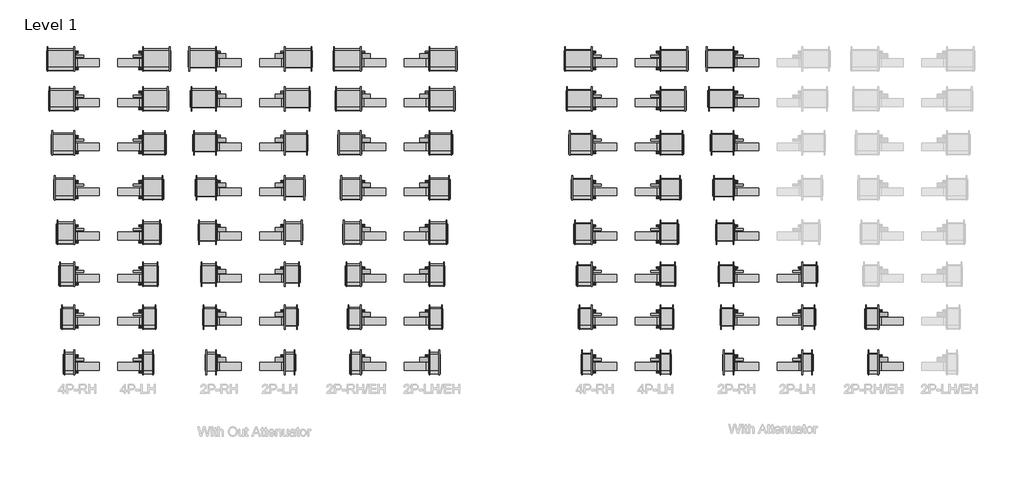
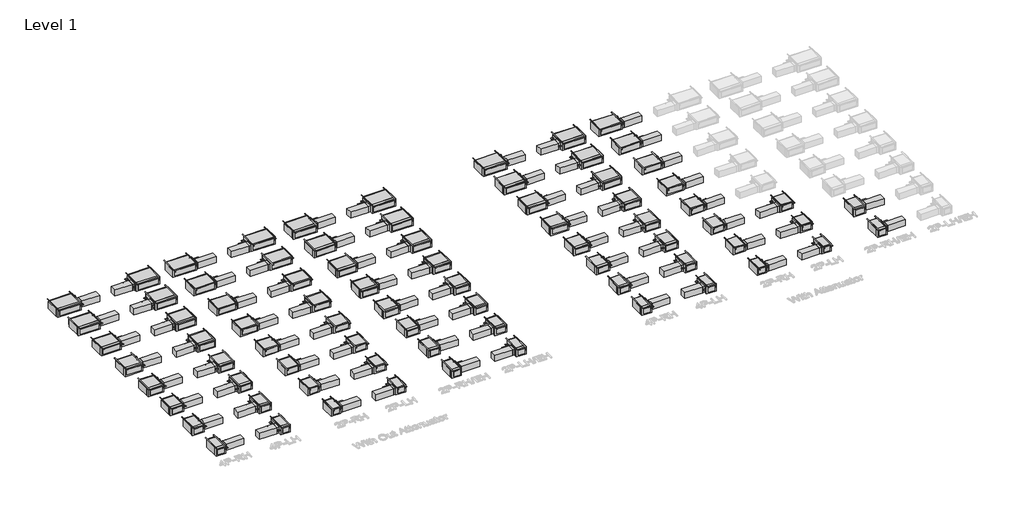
# One storey, part 1 of 4: 77 proxies.
"""IFC4 building model written with IfcOpenShell, lengths in millimetres."""

from ifc_helpers import new_model, si_unit, origin, place, context, project, spatial, transform, mapped, element, save
from components import mechanical_equipment_fcfb84d7, mechanical_equipment_2b49ad70, mechanical_equipment_5902cffa, mechanical_equipment_9c1fd06b, mechanical_equipment_660552b3, mechanical_equipment_800e06f4, mechanical_equipment_fa637ccc, mechanical_equipment_3d4806d0, mechanical_equipment_4312a383, mechanical_equipment_1d8da599, mechanical_equipment_beda8904, mechanical_equipment_f391035c, mechanical_equipment_eba861e0, mechanical_equipment_526e6bc5, mechanical_equipment_9ba4c479, mechanical_equipment_cdb46610, mechanical_equipment_292f4eca, mechanical_equipment_b090dba3, mechanical_equipment_f79a586b, mechanical_equipment_fb492758, mechanical_equipment_15b8e653, mechanical_equipment_6e5dec12, mechanical_equipment_fb8a0a16, mechanical_equipment_4b2043c7, mechanical_equipment_22873e4c, mechanical_equipment_ea369ea6, mechanical_equipment_ed54f031, mechanical_equipment_382ec1c5, mechanical_equipment_40ce1df8, mechanical_equipment_569a34a6, mechanical_equipment_2829a383, mechanical_equipment_76ebdcd2, mechanical_equipment_2120fcd1, mechanical_equipment_4392f8a6, mechanical_equipment_04a0eb57, mechanical_equipment_7905012c, mechanical_equipment_5dbc868a, mechanical_equipment_3730871c, mechanical_equipment_b75f16a6, mechanical_equipment_14f6b31d, mechanical_equipment_58405996, mechanical_equipment_42922af7, mechanical_equipment_6c4fba5a, mechanical_equipment_81a88c02, mechanical_equipment_90fce537, mechanical_equipment_754c69c9, mechanical_equipment_ee88df2d, mechanical_equipment_6d038fa3, mechanical_equipment_ea2074a5, mechanical_equipment_dc8cdb3c, mechanical_equipment_982238e7, mechanical_equipment_edd249ce, mechanical_equipment_b6417b97, mechanical_equipment_46e4027d, mechanical_equipment_b4f22ead, mechanical_equipment_76f7c0e1, mechanical_equipment_b924c97b, mechanical_equipment_ca845f7f, mechanical_equipment_e7b05cd7, mechanical_equipment_fc5b764f, mechanical_equipment_1765d083, mechanical_equipment_86c30c7f, mechanical_equipment_22c674f3, mechanical_equipment_d1fae188, mechanical_equipment_29029b33, mechanical_equipment_eb39aeac, mechanical_equipment_fa6ce069, mechanical_equipment_a815f6c8, mechanical_equipment_6f1a1475, mechanical_equipment_cb3144da, mechanical_equipment_aca808ea, mechanical_equipment_6838c852, mechanical_equipment_74373646, mechanical_equipment_b82c571a, mechanical_equipment_8bab9ec0, mechanical_equipment_975d1c76, mechanical_equipment_ea3bd49d

model = new_model("IFC4")

# Units and contexts
model_context = context("Model", 3, world=origin())
ifc_project = project(units=[si_unit("LENGTHUNIT", "METRE", prefix="MILLI")], contexts=[model_context])

# Site, building, storey
site = spatial("IfcSite", under=ifc_project)
building = spatial("IfcBuilding", under=site)
storey = spatial("IfcBuildingStorey", under=building, Name="Level 1", Elevation=0.0)

# Proxies
placement = place(None, origin())
mechanical_equipment_shape = mechanical_equipment_fcfb84d7(model_context)
element("IfcBuildingElementProxy", 1, Name="High_Capacity_Horizontal_Cabinet_Fan_Coil_Unit_-_HTY_-_IEC_-_2 Pipe, Elec Heat_RH Side_2022 : Size 06 - 277v/60Hz/1Ph - 8/0 Coil 4.0kW - 8\" AirIn", ObjectType="High_Capacity_Horizontal_Cabinet_Fan_Coil_Unit_-_HTY_-_IEC_-_2 Pipe, Elec Heat_RH Side_2022 : Size 06 - 277v/60Hz/1Ph - 8/0 Coil 4.0kW - 8\" AirIn", at=placement, inside=storey, context=model_context, shape_type="MappedRepresentation", body=[
    mapped(mechanical_equipment_shape, transform((4668.7811562, 2254.7980436, 457.2), x_axis=(1.0, 0.0, 0.0), y_axis=(0.0, 1.0, 0.0), z_axis=(0.0, 0.0, 1.0))),
])
mechanical_equipment_2_shape = mechanical_equipment_2b49ad70(model_context)
element("IfcBuildingElementProxy", 2, Name="High_Capacity_Horizontal_Cabinet_Fan_Coil_Unit_-_HTY_-_IEC_-_2 Pipe, Elec Heat_RH Side_2022 : Size 08 - 277v/60Hz/1Ph - 8/0 Coil 6.0kW - 8\" AirIn", ObjectType="High_Capacity_Horizontal_Cabinet_Fan_Coil_Unit_-_HTY_-_IEC_-_2 Pipe, Elec Heat_RH Side_2022 : Size 08 - 277v/60Hz/1Ph - 8/0 Coil 6.0kW - 8\" AirIn", at=placement, inside=storey, context=model_context, shape_type="MappedRepresentation", body=[
    mapped(mechanical_equipment_2_shape, transform((4605.2811562, 4489.9980436, 457.2), x_axis=(1.0, 0.0, 0.0), y_axis=(0.0, 1.0, 0.0), z_axis=(0.0, 0.0, 1.0))),
])
mechanical_equipment_3_shape = mechanical_equipment_5902cffa(model_context)
element("IfcBuildingElementProxy", 3, Name="High_Capacity_Horizontal_Cabinet_Fan_Coil_Unit_-_HTY_-_IEC_-_2-Pipe_LH Side_2022 : Size 06 - 115v/60Hz/1Ph - 4/0 Coil - 4\" AirIn", ObjectType="High_Capacity_Horizontal_Cabinet_Fan_Coil_Unit_-_HTY_-_IEC_-_2-Pipe_LH Side_2022 : Size 06 - 115v/60Hz/1Ph - 4/0 Coil - 4\" AirIn", at=placement, inside=storey, context=model_context, shape_type="MappedRepresentation", body=[
    mapped(mechanical_equipment_3_shape, transform((1392.1811562, 2254.7980436, 457.2), x_axis=(1.0, 0.0, 0.0), y_axis=(0.0, 1.0, 0.0), z_axis=(0.0, 0.0, 1.0))),
])
mechanical_equipment_4_shape = mechanical_equipment_9c1fd06b(model_context)
element("IfcBuildingElementProxy", 4, Name="High_Capacity_Horizontal_Cabinet_Fan_Coil_Unit_-_HTY_-_IEC_-_2-Pipe_LH Side_2022 : Size 08 - 115v/60Hz/1Ph - 4/0 Coil - 4\" AirIn", ObjectType="High_Capacity_Horizontal_Cabinet_Fan_Coil_Unit_-_HTY_-_IEC_-_2-Pipe_LH Side_2022 : Size 08 - 115v/60Hz/1Ph - 4/0 Coil - 4\" AirIn", at=placement, inside=storey, context=model_context, shape_type="MappedRepresentation", body=[
    mapped(mechanical_equipment_4_shape, transform((1455.6811562, 4489.9980436, 457.2), x_axis=(1.0, 0.0, 0.0), y_axis=(0.0, 1.0, 0.0), z_axis=(0.0, 0.0, 1.0))),
])
mechanical_equipment_5_shape = mechanical_equipment_660552b3(model_context)
element("IfcBuildingElementProxy", 5, Name="High_Capacity_Horizontal_Cabinet_Fan_Coil_Unit_-_HTY_-_IEC_-_2-Pipe_LH Side_2022 : Size 10 - 115v/60Hz/1Ph - 4/0 Coil - 4\" AirIn", ObjectType="High_Capacity_Horizontal_Cabinet_Fan_Coil_Unit_-_HTY_-_IEC_-_2-Pipe_LH Side_2022 : Size 10 - 115v/60Hz/1Ph - 4/0 Coil - 4\" AirIn", at=placement, inside=storey, context=model_context, shape_type="MappedRepresentation", body=[
    mapped(mechanical_equipment_5_shape, transform((1506.4811562, 6623.5980436, 457.2), x_axis=(1.0, 0.0, 0.0), y_axis=(0.0, 1.0, 0.0), z_axis=(0.0, 0.0, 1.0))),
])
mechanical_equipment_6_shape = mechanical_equipment_800e06f4(model_context)
element("IfcBuildingElementProxy", 6, Name="High_Capacity_Horizontal_Cabinet_Fan_Coil_Unit_-_HTY_-_IEC_-_2-Pipe_RH Side_2022 : Size 06 - 115v/60Hz/1Ph - 4/0 Coil - 4\" AirIn", ObjectType="High_Capacity_Horizontal_Cabinet_Fan_Coil_Unit_-_HTY_-_IEC_-_2-Pipe_RH Side_2022 : Size 06 - 115v/60Hz/1Ph - 4/0 Coil - 4\" AirIn", at=placement, inside=storey, context=model_context, shape_type="MappedRepresentation", body=[
    mapped(mechanical_equipment_6_shape, transform((-2494.0188438, 2254.7980436, 457.2), x_axis=(1.0, 0.0, 0.0), y_axis=(0.0, 1.0, 0.0), z_axis=(0.0, 0.0, 1.0))),
])
mechanical_equipment_7_shape = mechanical_equipment_fa637ccc(model_context)
element("IfcBuildingElementProxy", 7, Name="High_Capacity_Horizontal_Cabinet_Fan_Coil_Unit_-_HTY_-_IEC_-_2-Pipe_RH Side_2022 : Size 08 - 115v/60Hz/1Ph - 4/0 Coil - 4\" AirIn", ObjectType="High_Capacity_Horizontal_Cabinet_Fan_Coil_Unit_-_HTY_-_IEC_-_2-Pipe_RH Side_2022 : Size 08 - 115v/60Hz/1Ph - 4/0 Coil - 4\" AirIn", at=placement, inside=storey, context=model_context, shape_type="MappedRepresentation", body=[
    mapped(mechanical_equipment_7_shape, transform((-2557.5188438, 4489.9980436, 457.2), x_axis=(1.0, 0.0, 0.0), y_axis=(0.0, 1.0, 0.0), z_axis=(0.0, 0.0, 1.0))),
])
mechanical_equipment_8_shape = mechanical_equipment_3d4806d0(model_context)
element("IfcBuildingElementProxy", 8, Name="High_Capacity_Horizontal_Cabinet_Fan_Coil_Unit_-_HTY_-_IEC_-_2-Pipe_RH Side_2022 : Size 10 - 115v/60Hz/1Ph - 4/0 Coil - 4\" AirIn", ObjectType="High_Capacity_Horizontal_Cabinet_Fan_Coil_Unit_-_HTY_-_IEC_-_2-Pipe_RH Side_2022 : Size 10 - 115v/60Hz/1Ph - 4/0 Coil - 4\" AirIn", at=placement, inside=storey, context=model_context, shape_type="MappedRepresentation", body=[
    mapped(mechanical_equipment_8_shape, transform((-2608.3188438, 6623.5980436, 457.2), x_axis=(1.0, 0.0, 0.0), y_axis=(0.0, 1.0, 0.0), z_axis=(0.0, 0.0, 1.0))),
])
mechanical_equipment_9_shape = mechanical_equipment_4312a383(model_context)
element("IfcBuildingElementProxy", 9, Name="High_Capacity_Horizontal_Cabinet_Fan_Coil_Unit_-_HTY_-_IEC_-_2-Pipe_RH Side_2022 : Size 12 - 115v/60Hz/1Ph - 4/0 Coil - 4\" AirIn", ObjectType="High_Capacity_Horizontal_Cabinet_Fan_Coil_Unit_-_HTY_-_IEC_-_2-Pipe_RH Side_2022 : Size 12 - 115v/60Hz/1Ph - 4/0 Coil - 4\" AirIn", at=placement, inside=storey, context=model_context, shape_type="MappedRepresentation", body=[
    mapped(mechanical_equipment_9_shape, transform((-2671.8188438, 8706.3980436, 457.2), x_axis=(1.0, 0.0, 0.0), y_axis=(0.0, 1.0, 0.0), z_axis=(0.0, 0.0, 1.0))),
])
mechanical_equipment_10_shape = mechanical_equipment_1d8da599(model_context)
element("IfcBuildingElementProxy", 10, Name="High_Capacity_Horizontal_Cabinet_Fan_Coil_Unit_-_HTY_-_IEC_-_2-Pipe_RH Side_2022 : Size 14 - 115v/60Hz/1Ph - 4/0 Coil - 4\" AirIn", ObjectType="High_Capacity_Horizontal_Cabinet_Fan_Coil_Unit_-_HTY_-_IEC_-_2-Pipe_RH Side_2022 : Size 14 - 115v/60Hz/1Ph - 4/0 Coil - 4\" AirIn", at=placement, inside=storey, context=model_context, shape_type="MappedRepresentation", body=[
    mapped(mechanical_equipment_10_shape, transform((-2735.3188438, 10893.3975065, 457.2), x_axis=(1.0, 0.0, 0.0), y_axis=(0.0, 1.0, 0.0), z_axis=(0.0, 0.0, 1.0))),
])
mechanical_equipment_11_shape = mechanical_equipment_beda8904(model_context)
element("IfcBuildingElementProxy", 11, Name="High_Capacity_Horizontal_Cabinet_Fan_Coil_Unit_-_HTY_-_IEC_-_2-Pipe_RH Side_2022 : Size 16 - 115v/60Hz/1Ph - 4/0 Coil - 4\" AirIn", ObjectType="High_Capacity_Horizontal_Cabinet_Fan_Coil_Unit_-_HTY_-_IEC_-_2-Pipe_RH Side_2022 : Size 16 - 115v/60Hz/1Ph - 4/0 Coil - 4\" AirIn", at=placement, inside=storey, context=model_context, shape_type="MappedRepresentation", body=[
    mapped(mechanical_equipment_11_shape, transform((-2798.8188438, 13125.9980436, 457.2), x_axis=(1.0, 0.0, 0.0), y_axis=(0.0, 1.0, 0.0), z_axis=(0.0, 0.0, 1.0))),
])
mechanical_equipment_12_shape = mechanical_equipment_f391035c(model_context)
element("IfcBuildingElementProxy", 12, Name="High_Capacity_Horizontal_Cabinet_Fan_Coil_Unit_-_HTY_-_IEC_-_2-Pipe_RH Side_2022 : Size 18 - 115v/60Hz/1Ph - 4/0 Coil - 4\" AirIn", ObjectType="High_Capacity_Horizontal_Cabinet_Fan_Coil_Unit_-_HTY_-_IEC_-_2-Pipe_RH Side_2022 : Size 18 - 115v/60Hz/1Ph - 4/0 Coil - 4\" AirIn", at=placement, inside=storey, context=model_context, shape_type="MappedRepresentation", body=[
    mapped(mechanical_equipment_12_shape, transform((-2862.3188438, 15310.3980436, 457.2), x_axis=(1.0, 0.0, 0.0), y_axis=(0.0, 1.0, 0.0), z_axis=(0.0, 0.0, 1.0))),
])
mechanical_equipment_13_shape = mechanical_equipment_eba861e0(model_context)
element("IfcBuildingElementProxy", 13, Name="High_Capacity_Horizontal_Cabinet_Fan_Coil_Unit_-_HTY_-_IEC_-_2-Pipe_RH Side_2022 : Size 20 - 115v/60Hz/1Ph - 4/0 Coil - 4\" AirIn", ObjectType="High_Capacity_Horizontal_Cabinet_Fan_Coil_Unit_-_HTY_-_IEC_-_2-Pipe_RH Side_2022 : Size 20 - 115v/60Hz/1Ph - 4/0 Coil - 4\" AirIn", at=placement, inside=storey, context=model_context, shape_type="MappedRepresentation", body=[
    mapped(mechanical_equipment_13_shape, transform((-2913.1188438, 17291.5980436, 457.2), x_axis=(1.0, 0.0, 0.0), y_axis=(0.0, 1.0, 0.0), z_axis=(0.0, 0.0, 1.0))),
])
mechanical_equipment_14_shape = mechanical_equipment_526e6bc5(model_context)
element("IfcBuildingElementProxy", 14, Name="High_Capacity_Horizontal_Cabinet_Fan_Coil_Unit_-_HTY_-_IEC_-_4-Pipe_LH Side_2022 : Size 06 - 115v/60Hz/1Ph - 4/1 Coil - 4\" AirIn", ObjectType="High_Capacity_Horizontal_Cabinet_Fan_Coil_Unit_-_HTY_-_IEC_-_4-Pipe_LH Side_2022 : Size 06 - 115v/60Hz/1Ph - 4/1 Coil - 4\" AirIn", at=placement, inside=storey, context=model_context, shape_type="MappedRepresentation", body=[
    mapped(mechanical_equipment_14_shape, transform((-5618.2188438, 2254.7980436, 457.2), x_axis=(1.0, 0.0, 0.0), y_axis=(0.0, 1.0, 0.0), z_axis=(0.0, 0.0, 1.0))),
])
mechanical_equipment_15_shape = mechanical_equipment_9ba4c479(model_context)
element("IfcBuildingElementProxy", 15, Name="High_Capacity_Horizontal_Cabinet_Fan_Coil_Unit_-_HTY_-_IEC_-_4-Pipe_LH Side_2022 : Size 08 - 115v/60Hz/1Ph - 4/1 Coil - 4\" AirIn", ObjectType="High_Capacity_Horizontal_Cabinet_Fan_Coil_Unit_-_HTY_-_IEC_-_4-Pipe_LH Side_2022 : Size 08 - 115v/60Hz/1Ph - 4/1 Coil - 4\" AirIn", at=placement, inside=storey, context=model_context, shape_type="MappedRepresentation", body=[
    mapped(mechanical_equipment_15_shape, transform((-5554.7188438, 4489.9980436, 457.2), x_axis=(1.0, 0.0, 0.0), y_axis=(0.0, 1.0, 0.0), z_axis=(0.0, 0.0, 1.0))),
])
mechanical_equipment_16_shape = mechanical_equipment_cdb46610(model_context)
element("IfcBuildingElementProxy", 16, Name="High_Capacity_Horizontal_Cabinet_Fan_Coil_Unit_-_HTY_-_IEC_-_4-Pipe_LH Side_2022 : Size 10 - 115v/60Hz/1Ph - 4/1 Coil - 4\" AirIn", ObjectType="High_Capacity_Horizontal_Cabinet_Fan_Coil_Unit_-_HTY_-_IEC_-_4-Pipe_LH Side_2022 : Size 10 - 115v/60Hz/1Ph - 4/1 Coil - 4\" AirIn", at=placement, inside=storey, context=model_context, shape_type="MappedRepresentation", body=[
    mapped(mechanical_equipment_16_shape, transform((-5503.9188438, 6623.5980436, 457.2), x_axis=(1.0, 0.0, 0.0), y_axis=(0.0, 1.0, 0.0), z_axis=(0.0, 0.0, 1.0))),
])
mechanical_equipment_17_shape = mechanical_equipment_292f4eca(model_context)
element("IfcBuildingElementProxy", 17, Name="High_Capacity_Horizontal_Cabinet_Fan_Coil_Unit_-_HTY_-_IEC_-_4-Pipe_LH Side_2022 : Size 12 - 115v/60Hz/1Ph - 4/1 Coil - 4\" AirIn", ObjectType="High_Capacity_Horizontal_Cabinet_Fan_Coil_Unit_-_HTY_-_IEC_-_4-Pipe_LH Side_2022 : Size 12 - 115v/60Hz/1Ph - 4/1 Coil - 4\" AirIn", at=placement, inside=storey, context=model_context, shape_type="MappedRepresentation", body=[
    mapped(mechanical_equipment_17_shape, transform((-5440.4188438, 8706.3980436, 457.2), x_axis=(1.0, 0.0, 0.0), y_axis=(0.0, 1.0, 0.0), z_axis=(0.0, 0.0, 1.0))),
])
mechanical_equipment_18_shape = mechanical_equipment_b090dba3(model_context)
element("IfcBuildingElementProxy", 18, Name="High_Capacity_Horizontal_Cabinet_Fan_Coil_Unit_-_HTY_-_IEC_-_4-Pipe_LH Side_2022 : Size 14 - 115v/60Hz/1Ph - 4/1 Coil - 4\" AirIn", ObjectType="High_Capacity_Horizontal_Cabinet_Fan_Coil_Unit_-_HTY_-_IEC_-_4-Pipe_LH Side_2022 : Size 14 - 115v/60Hz/1Ph - 4/1 Coil - 4\" AirIn", at=placement, inside=storey, context=model_context, shape_type="MappedRepresentation", body=[
    mapped(mechanical_equipment_18_shape, transform((-5376.9188438, 10893.3975065, 457.2), x_axis=(1.0, 0.0, 0.0), y_axis=(0.0, 1.0, 0.0), z_axis=(0.0, 0.0, 1.0))),
])
mechanical_equipment_19_shape = mechanical_equipment_f79a586b(model_context)
element("IfcBuildingElementProxy", 19, Name="High_Capacity_Horizontal_Cabinet_Fan_Coil_Unit_-_HTY_-_IEC_-_4-Pipe_LH Side_2022 : Size 16 - 115v/60Hz/1Ph - 4/1 Coil - 4\" AirIn", ObjectType="High_Capacity_Horizontal_Cabinet_Fan_Coil_Unit_-_HTY_-_IEC_-_4-Pipe_LH Side_2022 : Size 16 - 115v/60Hz/1Ph - 4/1 Coil - 4\" AirIn", at=placement, inside=storey, context=model_context, shape_type="MappedRepresentation", body=[
    mapped(mechanical_equipment_19_shape, transform((-5313.4188438, 13125.9980436, 457.2), x_axis=(1.0, 0.0, 0.0), y_axis=(0.0, 1.0, 0.0), z_axis=(0.0, 0.0, 1.0))),
])
mechanical_equipment_20_shape = mechanical_equipment_fb492758(model_context)
element("IfcBuildingElementProxy", 20, Name="High_Capacity_Horizontal_Cabinet_Fan_Coil_Unit_-_HTY_-_IEC_-_4-Pipe_LH Side_2022 : Size 18 - 115v/60Hz/1Ph - 4/1 Coil - 4\" AirIn", ObjectType="High_Capacity_Horizontal_Cabinet_Fan_Coil_Unit_-_HTY_-_IEC_-_4-Pipe_LH Side_2022 : Size 18 - 115v/60Hz/1Ph - 4/1 Coil - 4\" AirIn", at=placement, inside=storey, context=model_context, shape_type="MappedRepresentation", body=[
    mapped(mechanical_equipment_20_shape, transform((-5249.9188438, 15310.3980436, 457.2), x_axis=(1.0, 0.0, 0.0), y_axis=(0.0, 1.0, 0.0), z_axis=(0.0, 0.0, 1.0))),
])
mechanical_equipment_21_shape = mechanical_equipment_15b8e653(model_context)
element("IfcBuildingElementProxy", 21, Name="High_Capacity_Horizontal_Cabinet_Fan_Coil_Unit_-_HTY_-_IEC_-_4-Pipe_LH Side_2022 : Size 20 - 115v/60Hz/1Ph - 4/1 Coil - 4\" AirIn", ObjectType="High_Capacity_Horizontal_Cabinet_Fan_Coil_Unit_-_HTY_-_IEC_-_4-Pipe_LH Side_2022 : Size 20 - 115v/60Hz/1Ph - 4/1 Coil - 4\" AirIn", at=placement, inside=storey, context=model_context, shape_type="MappedRepresentation", body=[
    mapped(mechanical_equipment_21_shape, transform((-5199.1188438, 17291.5980436, 457.2), x_axis=(1.0, 0.0, 0.0), y_axis=(0.0, 1.0, 0.0), z_axis=(0.0, 0.0, 1.0))),
])
mechanical_equipment_22_shape = mechanical_equipment_6e5dec12(model_context)
element("IfcBuildingElementProxy", 22, Name="High_Capacity_Horizontal_Cabinet_Fan_Coil_Unit_-_HTY_-_IEC_-_4-Pipe_RH Side_2022 : Size 06 - 115v/60Hz/1Ph - 4/1 Coil - 4\" AirIn", ObjectType="High_Capacity_Horizontal_Cabinet_Fan_Coil_Unit_-_HTY_-_IEC_-_4-Pipe_RH Side_2022 : Size 06 - 115v/60Hz/1Ph - 4/1 Coil - 4\" AirIn", at=placement, inside=storey, context=model_context, shape_type="MappedRepresentation", body=[
    mapped(mechanical_equipment_22_shape, transform((-9504.4188438, 2254.7980436, 457.2), x_axis=(1.0, 0.0, 0.0), y_axis=(0.0, 1.0, 0.0), z_axis=(0.0, 0.0, 1.0))),
])
mechanical_equipment_23_shape = mechanical_equipment_fb8a0a16(model_context)
element("IfcBuildingElementProxy", 23, Name="High_Capacity_Horizontal_Cabinet_Fan_Coil_Unit_-_HTY_-_IEC_-_4-Pipe_RH Side_2022 : Size 08 - 115v/60Hz/1Ph - 4/1 Coil - 4\" AirIn", ObjectType="High_Capacity_Horizontal_Cabinet_Fan_Coil_Unit_-_HTY_-_IEC_-_4-Pipe_RH Side_2022 : Size 08 - 115v/60Hz/1Ph - 4/1 Coil - 4\" AirIn", at=placement, inside=storey, context=model_context, shape_type="MappedRepresentation", body=[
    mapped(mechanical_equipment_23_shape, transform((-9567.9188438, 4489.9980436, 457.2), x_axis=(1.0, 0.0, 0.0), y_axis=(0.0, 1.0, 0.0), z_axis=(0.0, 0.0, 1.0))),
])
mechanical_equipment_24_shape = mechanical_equipment_4b2043c7(model_context)
element("IfcBuildingElementProxy", 24, Name="High_Capacity_Horizontal_Cabinet_Fan_Coil_Unit_-_HTY_-_IEC_-_4-Pipe_RH Side_2022 : Size 10 - 115v/60Hz/1Ph - 4/1 Coil - 4\" AirIn", ObjectType="High_Capacity_Horizontal_Cabinet_Fan_Coil_Unit_-_HTY_-_IEC_-_4-Pipe_RH Side_2022 : Size 10 - 115v/60Hz/1Ph - 4/1 Coil - 4\" AirIn", at=placement, inside=storey, context=model_context, shape_type="MappedRepresentation", body=[
    mapped(mechanical_equipment_24_shape, transform((-9618.7188438, 6623.5980436, 457.2), x_axis=(1.0, 0.0, 0.0), y_axis=(0.0, 1.0, 0.0), z_axis=(0.0, 0.0, 1.0))),
])
mechanical_equipment_25_shape = mechanical_equipment_22873e4c(model_context)
element("IfcBuildingElementProxy", 25, Name="High_Capacity_Horizontal_Cabinet_Fan_Coil_Unit_-_HTY_-_IEC_-_4-Pipe_RH Side_2022 : Size 12 - 115v/60Hz/1Ph - 4/1 Coil - 4\" AirIn", ObjectType="High_Capacity_Horizontal_Cabinet_Fan_Coil_Unit_-_HTY_-_IEC_-_4-Pipe_RH Side_2022 : Size 12 - 115v/60Hz/1Ph - 4/1 Coil - 4\" AirIn", at=placement, inside=storey, context=model_context, shape_type="MappedRepresentation", body=[
    mapped(mechanical_equipment_25_shape, transform((-9682.2188438, 8706.3980436, 457.2), x_axis=(1.0, 0.0, 0.0), y_axis=(0.0, 1.0, 0.0), z_axis=(0.0, 0.0, 1.0))),
])
mechanical_equipment_26_shape = mechanical_equipment_ea369ea6(model_context)
element("IfcBuildingElementProxy", 26, Name="High_Capacity_Horizontal_Cabinet_Fan_Coil_Unit_-_HTY_-_IEC_-_4-Pipe_RH Side_2022 : Size 14 - 115v/60Hz/1Ph - 4/1 Coil - 4\" AirIn", ObjectType="High_Capacity_Horizontal_Cabinet_Fan_Coil_Unit_-_HTY_-_IEC_-_4-Pipe_RH Side_2022 : Size 14 - 115v/60Hz/1Ph - 4/1 Coil - 4\" AirIn", at=placement, inside=storey, context=model_context, shape_type="MappedRepresentation", body=[
    mapped(mechanical_equipment_26_shape, transform((-9745.7188438, 10893.3975065, 457.2), x_axis=(1.0, 0.0, 0.0), y_axis=(0.0, 1.0, 0.0), z_axis=(0.0, 0.0, 1.0))),
])
mechanical_equipment_27_shape = mechanical_equipment_ed54f031(model_context)
element("IfcBuildingElementProxy", 27, Name="High_Capacity_Horizontal_Cabinet_Fan_Coil_Unit_-_HTY_-_IEC_-_4-Pipe_RH Side_2022 : Size 16 - 115v/60Hz/1Ph - 4/1 Coil - 4\" AirIn", ObjectType="High_Capacity_Horizontal_Cabinet_Fan_Coil_Unit_-_HTY_-_IEC_-_4-Pipe_RH Side_2022 : Size 16 - 115v/60Hz/1Ph - 4/1 Coil - 4\" AirIn", at=placement, inside=storey, context=model_context, shape_type="MappedRepresentation", body=[
    mapped(mechanical_equipment_27_shape, transform((-9809.2188438, 13125.9980436, 457.2), x_axis=(1.0, 0.0, 0.0), y_axis=(0.0, 1.0, 0.0), z_axis=(0.0, 0.0, 1.0))),
])
mechanical_equipment_28_shape = mechanical_equipment_382ec1c5(model_context)
element("IfcBuildingElementProxy", 28, Name="High_Capacity_Horizontal_Cabinet_Fan_Coil_Unit_-_HTY_-_IEC_-_4-Pipe_RH Side_2022 : Size 18 - 115v/60Hz/1Ph - 4/1 Coil - 4\" AirIn", ObjectType="High_Capacity_Horizontal_Cabinet_Fan_Coil_Unit_-_HTY_-_IEC_-_4-Pipe_RH Side_2022 : Size 18 - 115v/60Hz/1Ph - 4/1 Coil - 4\" AirIn", at=placement, inside=storey, context=model_context, shape_type="MappedRepresentation", body=[
    mapped(mechanical_equipment_28_shape, transform((-9872.7188438, 15310.3980436, 457.2), x_axis=(1.0, 0.0, 0.0), y_axis=(0.0, 1.0, 0.0), z_axis=(0.0, 0.0, 1.0))),
])
mechanical_equipment_29_shape = mechanical_equipment_40ce1df8(model_context)
element("IfcBuildingElementProxy", 29, Name="High_Capacity_Horizontal_Cabinet_Fan_Coil_Unit_-_HTY_-_IEC_-_4-Pipe_RH Side_2022 : Size 20 - 115v/60Hz/1Ph - 4/1 Coil - 4\" AirIn", ObjectType="High_Capacity_Horizontal_Cabinet_Fan_Coil_Unit_-_HTY_-_IEC_-_4-Pipe_RH Side_2022 : Size 20 - 115v/60Hz/1Ph - 4/1 Coil - 4\" AirIn", at=placement, inside=storey, context=model_context, shape_type="MappedRepresentation", body=[
    mapped(mechanical_equipment_29_shape, transform((-9923.5188438, 17291.5980436, 457.2), x_axis=(1.0, 0.0, 0.0), y_axis=(0.0, 1.0, 0.0), z_axis=(0.0, 0.0, 1.0))),
])
mechanical_equipment_30_shape = mechanical_equipment_569a34a6(model_context)
element("IfcBuildingElementProxy", 30, Name="High_Capacity_Horizontal_Cabinet_Fan_Coil_Unit_-_HTY_-_IEC_-_2 Pipe, Elec Heat_WO-Attenuator_LH Side_2022 : Size 06 - 277v/60Hz/1Ph - 8/0 Coil 4.0kW - 8\" AirIn", ObjectType="High_Capacity_Horizontal_Cabinet_Fan_Coil_Unit_-_HTY_-_IEC_-_2 Pipe, Elec Heat_WO-Attenuator_LH Side_2022 : Size 06 - 277v/60Hz/1Ph - 8/0 Coil 4.0kW - 8\" AirIn", at=placement, inside=storey, context=model_context, shape_type="MappedRepresentation", body=[
    mapped(mechanical_equipment_30_shape, transform((-17048.2188438, 2254.7980436, 457.2), x_axis=(1.0, 0.0, 0.0), y_axis=(0.0, 1.0, 0.0), z_axis=(0.0, 0.0, 1.0))),
])
mechanical_equipment_31_shape = mechanical_equipment_2829a383(model_context)
element("IfcBuildingElementProxy", 31, Name="High_Capacity_Horizontal_Cabinet_Fan_Coil_Unit_-_HTY_-_IEC_-_2 Pipe, Elec Heat_WO-Attenuator_LH Side_2022 : Size 08 - 277v/60Hz/1Ph - 8/0 Coil 6.0kW - 8\" AirIn", ObjectType="High_Capacity_Horizontal_Cabinet_Fan_Coil_Unit_-_HTY_-_IEC_-_2 Pipe, Elec Heat_WO-Attenuator_LH Side_2022 : Size 08 - 277v/60Hz/1Ph - 8/0 Coil 6.0kW - 8\" AirIn", at=placement, inside=storey, context=model_context, shape_type="MappedRepresentation", body=[
    mapped(mechanical_equipment_31_shape, transform((-16984.7188438, 4489.9980436, 457.2), x_axis=(1.0, 0.0, 0.0), y_axis=(0.0, 1.0, 0.0), z_axis=(0.0, 0.0, 1.0))),
])
mechanical_equipment_32_shape = mechanical_equipment_76ebdcd2(model_context)
element("IfcBuildingElementProxy", 32, Name="High_Capacity_Horizontal_Cabinet_Fan_Coil_Unit_-_HTY_-_IEC_-_2 Pipe, Elec Heat_WO-Attenuator_LH Side_2022 : Size 10 - 277v/60Hz/1Ph - 8/0 Coil 7.0kW - 8\" AirIn", ObjectType="High_Capacity_Horizontal_Cabinet_Fan_Coil_Unit_-_HTY_-_IEC_-_2 Pipe, Elec Heat_WO-Attenuator_LH Side_2022 : Size 10 - 277v/60Hz/1Ph - 8/0 Coil 7.0kW - 8\" AirIn", at=placement, inside=storey, context=model_context, shape_type="MappedRepresentation", body=[
    mapped(mechanical_equipment_32_shape, transform((-16933.9188438, 6623.5980436, 457.2), x_axis=(1.0, 0.0, 0.0), y_axis=(0.0, 1.0, 0.0), z_axis=(0.0, 0.0, 1.0))),
])
mechanical_equipment_33_shape = mechanical_equipment_2120fcd1(model_context)
element("IfcBuildingElementProxy", 33, Name="High_Capacity_Horizontal_Cabinet_Fan_Coil_Unit_-_HTY_-_IEC_-_2 Pipe, Elec Heat_WO-Attenuator_LH Side_2022 : Size 12 - 277v/60Hz/1Ph - 8/0 Coil 9.0kW - 8\" AirIn", ObjectType="High_Capacity_Horizontal_Cabinet_Fan_Coil_Unit_-_HTY_-_IEC_-_2 Pipe, Elec Heat_WO-Attenuator_LH Side_2022 : Size 12 - 277v/60Hz/1Ph - 8/0 Coil 9.0kW - 8\" AirIn", at=placement, inside=storey, context=model_context, shape_type="MappedRepresentation", body=[
    mapped(mechanical_equipment_33_shape, transform((-16870.4188438, 8706.3980436, 457.2), x_axis=(1.0, 0.0, 0.0), y_axis=(0.0, 1.0, 0.0), z_axis=(0.0, 0.0, 1.0))),
])
mechanical_equipment_34_shape = mechanical_equipment_4392f8a6(model_context)
element("IfcBuildingElementProxy", 34, Name="High_Capacity_Horizontal_Cabinet_Fan_Coil_Unit_-_HTY_-_IEC_-_2 Pipe, Elec Heat_WO-Attenuator_LH Side_2022 : Size 14 - 277v/60Hz/1Ph - 8/0 Coil 10.0kW - 8\" AirIn", ObjectType="High_Capacity_Horizontal_Cabinet_Fan_Coil_Unit_-_HTY_-_IEC_-_2 Pipe, Elec Heat_WO-Attenuator_LH Side_2022 : Size 14 - 277v/60Hz/1Ph - 8/0 Coil 10.0kW - 8\" AirIn", at=placement, inside=storey, context=model_context, shape_type="MappedRepresentation", body=[
    mapped(mechanical_equipment_34_shape, transform((-16806.9188438, 10893.3975065, 457.2), x_axis=(1.0, 0.0, 0.0), y_axis=(0.0, 1.0, 0.0), z_axis=(0.0, 0.0, 1.0))),
])
mechanical_equipment_35_shape = mechanical_equipment_04a0eb57(model_context)
element("IfcBuildingElementProxy", 35, Name="High_Capacity_Horizontal_Cabinet_Fan_Coil_Unit_-_HTY_-_IEC_-_2 Pipe, Elec Heat_WO-Attenuator_LH Side_2022 : Size 16 - 277v/60Hz/1Ph - 8/0 Coil 10.0kW - 8\" AirIn", ObjectType="High_Capacity_Horizontal_Cabinet_Fan_Coil_Unit_-_HTY_-_IEC_-_2 Pipe, Elec Heat_WO-Attenuator_LH Side_2022 : Size 16 - 277v/60Hz/1Ph - 8/0 Coil 10.0kW - 8\" AirIn", at=placement, inside=storey, context=model_context, shape_type="MappedRepresentation", body=[
    mapped(mechanical_equipment_35_shape, transform((-16743.4188438, 13125.9980436, 457.2), x_axis=(1.0, 0.0, 0.0), y_axis=(0.0, 1.0, 0.0), z_axis=(0.0, 0.0, 1.0))),
])
mechanical_equipment_36_shape = mechanical_equipment_7905012c(model_context)
element("IfcBuildingElementProxy", 36, Name="High_Capacity_Horizontal_Cabinet_Fan_Coil_Unit_-_HTY_-_IEC_-_2 Pipe, Elec Heat_WO-Attenuator_LH Side_2022 : Size 18 - 277v/60Hz/1Ph - 8/0 Coil 10.0kW - 8\" AirIn", ObjectType="High_Capacity_Horizontal_Cabinet_Fan_Coil_Unit_-_HTY_-_IEC_-_2 Pipe, Elec Heat_WO-Attenuator_LH Side_2022 : Size 18 - 277v/60Hz/1Ph - 8/0 Coil 10.0kW - 8\" AirIn", at=placement, inside=storey, context=model_context, shape_type="MappedRepresentation", body=[
    mapped(mechanical_equipment_36_shape, transform((-16679.9188438, 15310.3980436, 457.2), x_axis=(1.0, 0.0, 0.0), y_axis=(0.0, 1.0, 0.0), z_axis=(0.0, 0.0, 1.0))),
])
mechanical_equipment_37_shape = mechanical_equipment_5dbc868a(model_context)
element("IfcBuildingElementProxy", 37, Name="High_Capacity_Horizontal_Cabinet_Fan_Coil_Unit_-_HTY_-_IEC_-_2 Pipe, Elec Heat_WO-Attenuator_LH Side_2022 : Size 20 - 277v/60Hz/1Ph - 8/0 Coil 10.0kW - 8\" AirIn", ObjectType="High_Capacity_Horizontal_Cabinet_Fan_Coil_Unit_-_HTY_-_IEC_-_2 Pipe, Elec Heat_WO-Attenuator_LH Side_2022 : Size 20 - 277v/60Hz/1Ph - 8/0 Coil 10.0kW - 8\" AirIn", at=placement, inside=storey, context=model_context, shape_type="MappedRepresentation", body=[
    mapped(mechanical_equipment_37_shape, transform((-16629.1188438, 17291.5980436, 457.2), x_axis=(1.0, 0.0, 0.0), y_axis=(0.0, 1.0, 0.0), z_axis=(0.0, 0.0, 1.0))),
])
mechanical_equipment_38_shape = mechanical_equipment_3730871c(model_context)
element("IfcBuildingElementProxy", 38, Name="High_Capacity_Horizontal_Cabinet_Fan_Coil_Unit_-_HTY_-_IEC_-_2 Pipe, Elec Heat_WO-Attenuator_RH Side_2022 : Size 06 - 277v/60Hz/1Ph - 8/0 Coil 4.0kW - 8\" AirIn", ObjectType="High_Capacity_Horizontal_Cabinet_Fan_Coil_Unit_-_HTY_-_IEC_-_2 Pipe, Elec Heat_WO-Attenuator_RH Side_2022 : Size 06 - 277v/60Hz/1Ph - 8/0 Coil 4.0kW - 8\" AirIn", at=placement, inside=storey, context=model_context, shape_type="MappedRepresentation", body=[
    mapped(mechanical_equipment_38_shape, transform((-20934.4188438, 2254.7980436, 457.2), x_axis=(1.0, 0.0, 0.0), y_axis=(0.0, 1.0, 0.0), z_axis=(0.0, 0.0, 1.0))),
])
mechanical_equipment_39_shape = mechanical_equipment_b75f16a6(model_context)
element("IfcBuildingElementProxy", 39, Name="High_Capacity_Horizontal_Cabinet_Fan_Coil_Unit_-_HTY_-_IEC_-_2 Pipe, Elec Heat_WO-Attenuator_RH Side_2022 : Size 08 - 277v/60Hz/1Ph - 8/0 Coil 6.0kW - 8\" AirIn", ObjectType="High_Capacity_Horizontal_Cabinet_Fan_Coil_Unit_-_HTY_-_IEC_-_2 Pipe, Elec Heat_WO-Attenuator_RH Side_2022 : Size 08 - 277v/60Hz/1Ph - 8/0 Coil 6.0kW - 8\" AirIn", at=placement, inside=storey, context=model_context, shape_type="MappedRepresentation", body=[
    mapped(mechanical_equipment_39_shape, transform((-20997.9188438, 4489.9980436, 457.2), x_axis=(1.0, 0.0, 0.0), y_axis=(0.0, 1.0, 0.0), z_axis=(0.0, 0.0, 1.0))),
])
mechanical_equipment_40_shape = mechanical_equipment_14f6b31d(model_context)
element("IfcBuildingElementProxy", 40, Name="High_Capacity_Horizontal_Cabinet_Fan_Coil_Unit_-_HTY_-_IEC_-_2 Pipe, Elec Heat_WO-Attenuator_RH Side_2022 : Size 10 - 277v/60Hz/1Ph - 8/0 Coil 7.0kW - 8\" AirIn", ObjectType="High_Capacity_Horizontal_Cabinet_Fan_Coil_Unit_-_HTY_-_IEC_-_2 Pipe, Elec Heat_WO-Attenuator_RH Side_2022 : Size 10 - 277v/60Hz/1Ph - 8/0 Coil 7.0kW - 8\" AirIn", at=placement, inside=storey, context=model_context, shape_type="MappedRepresentation", body=[
    mapped(mechanical_equipment_40_shape, transform((-21048.7188438, 6623.5980436, 457.2), x_axis=(1.0, 0.0, 0.0), y_axis=(0.0, 1.0, 0.0), z_axis=(0.0, 0.0, 1.0))),
])
mechanical_equipment_41_shape = mechanical_equipment_58405996(model_context)
element("IfcBuildingElementProxy", 41, Name="High_Capacity_Horizontal_Cabinet_Fan_Coil_Unit_-_HTY_-_IEC_-_2 Pipe, Elec Heat_WO-Attenuator_RH Side_2022 : Size 12 - 277v/60Hz/1Ph - 8/0 Coil 9.0kW - 8\" AirIn", ObjectType="High_Capacity_Horizontal_Cabinet_Fan_Coil_Unit_-_HTY_-_IEC_-_2 Pipe, Elec Heat_WO-Attenuator_RH Side_2022 : Size 12 - 277v/60Hz/1Ph - 8/0 Coil 9.0kW - 8\" AirIn", at=placement, inside=storey, context=model_context, shape_type="MappedRepresentation", body=[
    mapped(mechanical_equipment_41_shape, transform((-21112.2188438, 8706.3980436, 457.2), x_axis=(1.0, 0.0, 0.0), y_axis=(0.0, 1.0, 0.0), z_axis=(0.0, 0.0, 1.0))),
])
mechanical_equipment_42_shape = mechanical_equipment_42922af7(model_context)
element("IfcBuildingElementProxy", 42, Name="High_Capacity_Horizontal_Cabinet_Fan_Coil_Unit_-_HTY_-_IEC_-_2 Pipe, Elec Heat_WO-Attenuator_RH Side_2022 : Size 14 - 277v/60Hz/1Ph - 8/0 Coil 10.0kW - 8\" AirIn", ObjectType="High_Capacity_Horizontal_Cabinet_Fan_Coil_Unit_-_HTY_-_IEC_-_2 Pipe, Elec Heat_WO-Attenuator_RH Side_2022 : Size 14 - 277v/60Hz/1Ph - 8/0 Coil 10.0kW - 8\" AirIn", at=placement, inside=storey, context=model_context, shape_type="MappedRepresentation", body=[
    mapped(mechanical_equipment_42_shape, transform((-21175.7188438, 10893.3975065, 457.2), x_axis=(1.0, 0.0, 0.0), y_axis=(0.0, 1.0, 0.0), z_axis=(0.0, 0.0, 1.0))),
])
mechanical_equipment_43_shape = mechanical_equipment_6c4fba5a(model_context)
element("IfcBuildingElementProxy", 43, Name="High_Capacity_Horizontal_Cabinet_Fan_Coil_Unit_-_HTY_-_IEC_-_2 Pipe, Elec Heat_WO-Attenuator_RH Side_2022 : Size 16 - 277v/60Hz/1Ph - 8/0 Coil 10.0kW - 8\" AirIn", ObjectType="High_Capacity_Horizontal_Cabinet_Fan_Coil_Unit_-_HTY_-_IEC_-_2 Pipe, Elec Heat_WO-Attenuator_RH Side_2022 : Size 16 - 277v/60Hz/1Ph - 8/0 Coil 10.0kW - 8\" AirIn", at=placement, inside=storey, context=model_context, shape_type="MappedRepresentation", body=[
    mapped(mechanical_equipment_43_shape, transform((-21239.2188438, 13125.9980436, 457.2), x_axis=(1.0, 0.0, 0.0), y_axis=(0.0, 1.0, 0.0), z_axis=(0.0, 0.0, 1.0))),
])
mechanical_equipment_44_shape = mechanical_equipment_81a88c02(model_context)
element("IfcBuildingElementProxy", 44, Name="High_Capacity_Horizontal_Cabinet_Fan_Coil_Unit_-_HTY_-_IEC_-_2 Pipe, Elec Heat_WO-Attenuator_RH Side_2022 : Size 18 - 277v/60Hz/1Ph - 8/0 Coil 10.0kW - 8\" AirIn", ObjectType="High_Capacity_Horizontal_Cabinet_Fan_Coil_Unit_-_HTY_-_IEC_-_2 Pipe, Elec Heat_WO-Attenuator_RH Side_2022 : Size 18 - 277v/60Hz/1Ph - 8/0 Coil 10.0kW - 8\" AirIn", at=placement, inside=storey, context=model_context, shape_type="MappedRepresentation", body=[
    mapped(mechanical_equipment_44_shape, transform((-21302.7188438, 15310.3980436, 457.2), x_axis=(1.0, 0.0, 0.0), y_axis=(0.0, 1.0, 0.0), z_axis=(0.0, 0.0, 1.0))),
])
mechanical_equipment_45_shape = mechanical_equipment_90fce537(model_context)
element("IfcBuildingElementProxy", 45, Name="High_Capacity_Horizontal_Cabinet_Fan_Coil_Unit_-_HTY_-_IEC_-_2 Pipe, Elec Heat_WO-Attenuator_RH Side_2022 : Size 20 - 277v/60Hz/1Ph - 8/0 Coil 10.0kW - 8\" AirIn", ObjectType="High_Capacity_Horizontal_Cabinet_Fan_Coil_Unit_-_HTY_-_IEC_-_2 Pipe, Elec Heat_WO-Attenuator_RH Side_2022 : Size 20 - 277v/60Hz/1Ph - 8/0 Coil 10.0kW - 8\" AirIn", at=placement, inside=storey, context=model_context, shape_type="MappedRepresentation", body=[
    mapped(mechanical_equipment_45_shape, transform((-21353.5188438, 17291.5980436, 457.2), x_axis=(1.0, 0.0, 0.0), y_axis=(0.0, 1.0, 0.0), z_axis=(0.0, 0.0, 1.0))),
])
mechanical_equipment_46_shape = mechanical_equipment_754c69c9(model_context)
element("IfcBuildingElementProxy", 46, Name="High_Capacity_Horizontal_Cabinet_Fan_Coil_Unit_-_HTY_-_IEC_-_2-Pipe_WO-Attenuator_LH Side_2022 : Size 06 - 277v/60Hz/1Ph - 8/0 Coil - 8\" AirIn", ObjectType="High_Capacity_Horizontal_Cabinet_Fan_Coil_Unit_-_HTY_-_IEC_-_2-Pipe_WO-Attenuator_LH Side_2022 : Size 06 - 277v/60Hz/1Ph - 8/0 Coil - 8\" AirIn", at=placement, inside=storey, context=model_context, shape_type="MappedRepresentation", body=[
    mapped(mechanical_equipment_46_shape, transform((-24211.0188438, 2254.7980436, 457.2), x_axis=(1.0, 0.0, 0.0), y_axis=(0.0, 1.0, 0.0), z_axis=(0.0, 0.0, 1.0))),
])
mechanical_equipment_47_shape = mechanical_equipment_ee88df2d(model_context)
element("IfcBuildingElementProxy", 47, Name="High_Capacity_Horizontal_Cabinet_Fan_Coil_Unit_-_HTY_-_IEC_-_2-Pipe_WO-Attenuator_LH Side_2022 : Size 08 - 277v/60Hz/1Ph - 8/0 Coil - 8\" AirIn", ObjectType="High_Capacity_Horizontal_Cabinet_Fan_Coil_Unit_-_HTY_-_IEC_-_2-Pipe_WO-Attenuator_LH Side_2022 : Size 08 - 277v/60Hz/1Ph - 8/0 Coil - 8\" AirIn", at=placement, inside=storey, context=model_context, shape_type="MappedRepresentation", body=[
    mapped(mechanical_equipment_47_shape, transform((-24147.5188438, 4489.9980436, 457.2), x_axis=(1.0, 0.0, 0.0), y_axis=(0.0, 1.0, 0.0), z_axis=(0.0, 0.0, 1.0))),
])
mechanical_equipment_48_shape = mechanical_equipment_6d038fa3(model_context)
element("IfcBuildingElementProxy", 48, Name="High_Capacity_Horizontal_Cabinet_Fan_Coil_Unit_-_HTY_-_IEC_-_2-Pipe_WO-Attenuator_LH Side_2022 : Size 10 - 277v/60Hz/1Ph - 8/0 Coil - 8\" AirIn", ObjectType="High_Capacity_Horizontal_Cabinet_Fan_Coil_Unit_-_HTY_-_IEC_-_2-Pipe_WO-Attenuator_LH Side_2022 : Size 10 - 277v/60Hz/1Ph - 8/0 Coil - 8\" AirIn", at=placement, inside=storey, context=model_context, shape_type="MappedRepresentation", body=[
    mapped(mechanical_equipment_48_shape, transform((-24096.7188438, 6623.5980436, 457.2), x_axis=(1.0, 0.0, 0.0), y_axis=(0.0, 1.0, 0.0), z_axis=(0.0, 0.0, 1.0))),
])
mechanical_equipment_49_shape = mechanical_equipment_ea2074a5(model_context)
element("IfcBuildingElementProxy", 49, Name="High_Capacity_Horizontal_Cabinet_Fan_Coil_Unit_-_HTY_-_IEC_-_2-Pipe_WO-Attenuator_LH Side_2022 : Size 12 - 277v/60Hz/1Ph - 8/0 Coil - 8\" AirIn", ObjectType="High_Capacity_Horizontal_Cabinet_Fan_Coil_Unit_-_HTY_-_IEC_-_2-Pipe_WO-Attenuator_LH Side_2022 : Size 12 - 277v/60Hz/1Ph - 8/0 Coil - 8\" AirIn", at=placement, inside=storey, context=model_context, shape_type="MappedRepresentation", body=[
    mapped(mechanical_equipment_49_shape, transform((-24033.2188438, 8706.3980436, 457.2), x_axis=(1.0, 0.0, 0.0), y_axis=(0.0, 1.0, 0.0), z_axis=(0.0, 0.0, 1.0))),
])
mechanical_equipment_50_shape = mechanical_equipment_dc8cdb3c(model_context)
element("IfcBuildingElementProxy", 50, Name="High_Capacity_Horizontal_Cabinet_Fan_Coil_Unit_-_HTY_-_IEC_-_2-Pipe_WO-Attenuator_LH Side_2022 : Size 14 - 277v/60Hz/1Ph - 8/0 Coil - 8\" AirIn", ObjectType="High_Capacity_Horizontal_Cabinet_Fan_Coil_Unit_-_HTY_-_IEC_-_2-Pipe_WO-Attenuator_LH Side_2022 : Size 14 - 277v/60Hz/1Ph - 8/0 Coil - 8\" AirIn", at=placement, inside=storey, context=model_context, shape_type="MappedRepresentation", body=[
    mapped(mechanical_equipment_50_shape, transform((-23969.7188438, 10893.3975065, 457.2), x_axis=(1.0, 0.0, 0.0), y_axis=(0.0, 1.0, 0.0), z_axis=(0.0, 0.0, 1.0))),
])
mechanical_equipment_51_shape = mechanical_equipment_982238e7(model_context)
element("IfcBuildingElementProxy", 51, Name="High_Capacity_Horizontal_Cabinet_Fan_Coil_Unit_-_HTY_-_IEC_-_2-Pipe_WO-Attenuator_LH Side_2022 : Size 16 - 277v/60Hz/1Ph - 8/0 Coil - 8\" AirIn", ObjectType="High_Capacity_Horizontal_Cabinet_Fan_Coil_Unit_-_HTY_-_IEC_-_2-Pipe_WO-Attenuator_LH Side_2022 : Size 16 - 277v/60Hz/1Ph - 8/0 Coil - 8\" AirIn", at=placement, inside=storey, context=model_context, shape_type="MappedRepresentation", body=[
    mapped(mechanical_equipment_51_shape, transform((-23906.2188438, 13125.9980436, 457.2), x_axis=(1.0, 0.0, 0.0), y_axis=(0.0, 1.0, 0.0), z_axis=(0.0, 0.0, 1.0))),
])
mechanical_equipment_52_shape = mechanical_equipment_edd249ce(model_context)
element("IfcBuildingElementProxy", 52, Name="High_Capacity_Horizontal_Cabinet_Fan_Coil_Unit_-_HTY_-_IEC_-_2-Pipe_WO-Attenuator_LH Side_2022 : Size 18 - 277v/60Hz/1Ph - 8/0 Coil - 8\" AirIn", ObjectType="High_Capacity_Horizontal_Cabinet_Fan_Coil_Unit_-_HTY_-_IEC_-_2-Pipe_WO-Attenuator_LH Side_2022 : Size 18 - 277v/60Hz/1Ph - 8/0 Coil - 8\" AirIn", at=placement, inside=storey, context=model_context, shape_type="MappedRepresentation", body=[
    mapped(mechanical_equipment_52_shape, transform((-23842.7188438, 15310.3980436, 457.2), x_axis=(1.0, 0.0, 0.0), y_axis=(0.0, 1.0, 0.0), z_axis=(0.0, 0.0, 1.0))),
])
mechanical_equipment_53_shape = mechanical_equipment_b6417b97(model_context)
element("IfcBuildingElementProxy", 53, Name="High_Capacity_Horizontal_Cabinet_Fan_Coil_Unit_-_HTY_-_IEC_-_2-Pipe_WO-Attenuator_LH Side_2022 : Size 20 - 277v/60Hz/1Ph - 8/0 Coil - 8\" AirIn", ObjectType="High_Capacity_Horizontal_Cabinet_Fan_Coil_Unit_-_HTY_-_IEC_-_2-Pipe_WO-Attenuator_LH Side_2022 : Size 20 - 277v/60Hz/1Ph - 8/0 Coil - 8\" AirIn", at=placement, inside=storey, context=model_context, shape_type="MappedRepresentation", body=[
    mapped(mechanical_equipment_53_shape, transform((-23791.9188438, 17291.5980436, 457.2), x_axis=(1.0, 0.0, 0.0), y_axis=(0.0, 1.0, 0.0), z_axis=(0.0, 0.0, 1.0))),
])
mechanical_equipment_54_shape = mechanical_equipment_46e4027d(model_context)
element("IfcBuildingElementProxy", 54, Name="High_Capacity_Horizontal_Cabinet_Fan_Coil_Unit_-_HTY_-_IEC_-_2-Pipe_WO-Attenuator_RH Side_2022 : Size 06 - 277v/60Hz/1Ph - 8/0 Coil - 8\" AirIn", ObjectType="High_Capacity_Horizontal_Cabinet_Fan_Coil_Unit_-_HTY_-_IEC_-_2-Pipe_WO-Attenuator_RH Side_2022 : Size 06 - 277v/60Hz/1Ph - 8/0 Coil - 8\" AirIn", at=placement, inside=storey, context=model_context, shape_type="MappedRepresentation", body=[
    mapped(mechanical_equipment_54_shape, transform((-28097.2188438, 2254.7980436, 457.2), x_axis=(1.0, 0.0, 0.0), y_axis=(0.0, 1.0, 0.0), z_axis=(0.0, 0.0, 1.0))),
])
mechanical_equipment_55_shape = mechanical_equipment_b4f22ead(model_context)
element("IfcBuildingElementProxy", 55, Name="High_Capacity_Horizontal_Cabinet_Fan_Coil_Unit_-_HTY_-_IEC_-_2-Pipe_WO-Attenuator_RH Side_2022 : Size 08 - 277v/60Hz/1Ph - 8/0 Coil - 8\" AirIn", ObjectType="High_Capacity_Horizontal_Cabinet_Fan_Coil_Unit_-_HTY_-_IEC_-_2-Pipe_WO-Attenuator_RH Side_2022 : Size 08 - 277v/60Hz/1Ph - 8/0 Coil - 8\" AirIn", at=placement, inside=storey, context=model_context, shape_type="MappedRepresentation", body=[
    mapped(mechanical_equipment_55_shape, transform((-28160.7188438, 4489.9980436, 457.2), x_axis=(1.0, 0.0, 0.0), y_axis=(0.0, 1.0, 0.0), z_axis=(0.0, 0.0, 1.0))),
])
mechanical_equipment_56_shape = mechanical_equipment_76f7c0e1(model_context)
element("IfcBuildingElementProxy", 56, Name="High_Capacity_Horizontal_Cabinet_Fan_Coil_Unit_-_HTY_-_IEC_-_2-Pipe_WO-Attenuator_RH Side_2022 : Size 10 - 277v/60Hz/1Ph - 8/0 Coil - 8\" AirIn", ObjectType="High_Capacity_Horizontal_Cabinet_Fan_Coil_Unit_-_HTY_-_IEC_-_2-Pipe_WO-Attenuator_RH Side_2022 : Size 10 - 277v/60Hz/1Ph - 8/0 Coil - 8\" AirIn", at=placement, inside=storey, context=model_context, shape_type="MappedRepresentation", body=[
    mapped(mechanical_equipment_56_shape, transform((-28211.5188438, 6623.5980436, 457.2), x_axis=(1.0, 0.0, 0.0), y_axis=(0.0, 1.0, 0.0), z_axis=(0.0, 0.0, 1.0))),
])
mechanical_equipment_57_shape = mechanical_equipment_b924c97b(model_context)
element("IfcBuildingElementProxy", 57, Name="High_Capacity_Horizontal_Cabinet_Fan_Coil_Unit_-_HTY_-_IEC_-_2-Pipe_WO-Attenuator_RH Side_2022 : Size 12 - 277v/60Hz/1Ph - 8/0 Coil - 8\" AirIn", ObjectType="High_Capacity_Horizontal_Cabinet_Fan_Coil_Unit_-_HTY_-_IEC_-_2-Pipe_WO-Attenuator_RH Side_2022 : Size 12 - 277v/60Hz/1Ph - 8/0 Coil - 8\" AirIn", at=placement, inside=storey, context=model_context, shape_type="MappedRepresentation", body=[
    mapped(mechanical_equipment_57_shape, transform((-28275.0188438, 8706.3980436, 457.2), x_axis=(1.0, 0.0, 0.0), y_axis=(0.0, 1.0, 0.0), z_axis=(0.0, 0.0, 1.0))),
])
mechanical_equipment_58_shape = mechanical_equipment_ca845f7f(model_context)
element("IfcBuildingElementProxy", 58, Name="High_Capacity_Horizontal_Cabinet_Fan_Coil_Unit_-_HTY_-_IEC_-_2-Pipe_WO-Attenuator_RH Side_2022 : Size 14 - 277v/60Hz/1Ph - 8/0 Coil - 8\" AirIn", ObjectType="High_Capacity_Horizontal_Cabinet_Fan_Coil_Unit_-_HTY_-_IEC_-_2-Pipe_WO-Attenuator_RH Side_2022 : Size 14 - 277v/60Hz/1Ph - 8/0 Coil - 8\" AirIn", at=placement, inside=storey, context=model_context, shape_type="MappedRepresentation", body=[
    mapped(mechanical_equipment_58_shape, transform((-28338.5188438, 10893.3975065, 457.2), x_axis=(1.0, 0.0, 0.0), y_axis=(0.0, 1.0, 0.0), z_axis=(0.0, 0.0, 1.0))),
])
mechanical_equipment_59_shape = mechanical_equipment_e7b05cd7(model_context)
element("IfcBuildingElementProxy", 59, Name="High_Capacity_Horizontal_Cabinet_Fan_Coil_Unit_-_HTY_-_IEC_-_2-Pipe_WO-Attenuator_RH Side_2022 : Size 16 - 277v/60Hz/1Ph - 8/0 Coil - 8\" AirIn", ObjectType="High_Capacity_Horizontal_Cabinet_Fan_Coil_Unit_-_HTY_-_IEC_-_2-Pipe_WO-Attenuator_RH Side_2022 : Size 16 - 277v/60Hz/1Ph - 8/0 Coil - 8\" AirIn", at=placement, inside=storey, context=model_context, shape_type="MappedRepresentation", body=[
    mapped(mechanical_equipment_59_shape, transform((-28402.0188438, 13125.9980436, 457.2), x_axis=(1.0, 0.0, 0.0), y_axis=(0.0, 1.0, 0.0), z_axis=(0.0, 0.0, 1.0))),
])
mechanical_equipment_60_shape = mechanical_equipment_fc5b764f(model_context)
element("IfcBuildingElementProxy", 60, Name="High_Capacity_Horizontal_Cabinet_Fan_Coil_Unit_-_HTY_-_IEC_-_2-Pipe_WO-Attenuator_RH Side_2022 : Size 18 - 277v/60Hz/1Ph - 8/0 Coil - 8\" AirIn", ObjectType="High_Capacity_Horizontal_Cabinet_Fan_Coil_Unit_-_HTY_-_IEC_-_2-Pipe_WO-Attenuator_RH Side_2022 : Size 18 - 277v/60Hz/1Ph - 8/0 Coil - 8\" AirIn", at=placement, inside=storey, context=model_context, shape_type="MappedRepresentation", body=[
    mapped(mechanical_equipment_60_shape, transform((-28465.5188438, 15310.3980436, 457.2), x_axis=(1.0, 0.0, 0.0), y_axis=(0.0, 1.0, 0.0), z_axis=(0.0, 0.0, 1.0))),
])
mechanical_equipment_61_shape = mechanical_equipment_1765d083(model_context)
element("IfcBuildingElementProxy", 61, Name="High_Capacity_Horizontal_Cabinet_Fan_Coil_Unit_-_HTY_-_IEC_-_2-Pipe_WO-Attenuator_RH Side_2022 : Size 20 - 277v/60Hz/1Ph - 8/0 Coil - 8\" AirIn", ObjectType="High_Capacity_Horizontal_Cabinet_Fan_Coil_Unit_-_HTY_-_IEC_-_2-Pipe_WO-Attenuator_RH Side_2022 : Size 20 - 277v/60Hz/1Ph - 8/0 Coil - 8\" AirIn", at=placement, inside=storey, context=model_context, shape_type="MappedRepresentation", body=[
    mapped(mechanical_equipment_61_shape, transform((-28516.3188438, 17291.5980436, 457.2), x_axis=(1.0, 0.0, 0.0), y_axis=(0.0, 1.0, 0.0), z_axis=(0.0, 0.0, 1.0))),
])
mechanical_equipment_62_shape = mechanical_equipment_86c30c7f(model_context)
element("IfcBuildingElementProxy", 62, Name="High_Capacity_Horizontal_Cabinet_Fan_Coil_Unit_-_HTY_-_IEC_-_4-Pipe_WO-Attenuator_LH Side_2022 : Size 06 - 115v/60Hz/1Ph - 4/1 Coil - 4\" AirIn", ObjectType="High_Capacity_Horizontal_Cabinet_Fan_Coil_Unit_-_HTY_-_IEC_-_4-Pipe_WO-Attenuator_LH Side_2022 : Size 06 - 115v/60Hz/1Ph - 4/1 Coil - 4\" AirIn", at=placement, inside=storey, context=model_context, shape_type="MappedRepresentation", body=[
    mapped(mechanical_equipment_62_shape, transform((-31221.4188438, 2254.7980436, 457.2), x_axis=(1.0, 0.0, 0.0), y_axis=(0.0, 1.0, 0.0), z_axis=(0.0, 0.0, 1.0))),
])
mechanical_equipment_63_shape = mechanical_equipment_22c674f3(model_context)
element("IfcBuildingElementProxy", 63, Name="High_Capacity_Horizontal_Cabinet_Fan_Coil_Unit_-_HTY_-_IEC_-_4-Pipe_WO-Attenuator_LH Side_2022 : Size 08 - 115v/60Hz/1Ph - 4/1 Coil - 4\" AirIn", ObjectType="High_Capacity_Horizontal_Cabinet_Fan_Coil_Unit_-_HTY_-_IEC_-_4-Pipe_WO-Attenuator_LH Side_2022 : Size 08 - 115v/60Hz/1Ph - 4/1 Coil - 4\" AirIn", at=placement, inside=storey, context=model_context, shape_type="MappedRepresentation", body=[
    mapped(mechanical_equipment_63_shape, transform((-31157.9188438, 4489.9980436, 457.2), x_axis=(1.0, 0.0, 0.0), y_axis=(0.0, 1.0, 0.0), z_axis=(0.0, 0.0, 1.0))),
])
mechanical_equipment_64_shape = mechanical_equipment_d1fae188(model_context)
element("IfcBuildingElementProxy", 64, Name="High_Capacity_Horizontal_Cabinet_Fan_Coil_Unit_-_HTY_-_IEC_-_4-Pipe_WO-Attenuator_LH Side_2022 : Size 10 - 115v/60Hz/1Ph - 4/1 Coil - 4\" AirIn", ObjectType="High_Capacity_Horizontal_Cabinet_Fan_Coil_Unit_-_HTY_-_IEC_-_4-Pipe_WO-Attenuator_LH Side_2022 : Size 10 - 115v/60Hz/1Ph - 4/1 Coil - 4\" AirIn", at=placement, inside=storey, context=model_context, shape_type="MappedRepresentation", body=[
    mapped(mechanical_equipment_64_shape, transform((-31107.1188438, 6623.5980436, 457.2), x_axis=(1.0, 0.0, 0.0), y_axis=(0.0, 1.0, 0.0), z_axis=(0.0, 0.0, 1.0))),
])
mechanical_equipment_65_shape = mechanical_equipment_29029b33(model_context)
element("IfcBuildingElementProxy", 65, Name="High_Capacity_Horizontal_Cabinet_Fan_Coil_Unit_-_HTY_-_IEC_-_4-Pipe_WO-Attenuator_LH Side_2022 : Size 12 - 115v/60Hz/1Ph - 4/1 Coil - 4\" AirIn", ObjectType="High_Capacity_Horizontal_Cabinet_Fan_Coil_Unit_-_HTY_-_IEC_-_4-Pipe_WO-Attenuator_LH Side_2022 : Size 12 - 115v/60Hz/1Ph - 4/1 Coil - 4\" AirIn", at=placement, inside=storey, context=model_context, shape_type="MappedRepresentation", body=[
    mapped(mechanical_equipment_65_shape, transform((-31043.6188438, 8706.3980436, 457.2), x_axis=(1.0, 0.0, 0.0), y_axis=(0.0, 1.0, 0.0), z_axis=(0.0, 0.0, 1.0))),
])
mechanical_equipment_66_shape = mechanical_equipment_eb39aeac(model_context)
element("IfcBuildingElementProxy", 66, Name="High_Capacity_Horizontal_Cabinet_Fan_Coil_Unit_-_HTY_-_IEC_-_4-Pipe_WO-Attenuator_LH Side_2022 : Size 14 - 115v/60Hz/1Ph - 4/1 Coil - 4\" AirIn", ObjectType="High_Capacity_Horizontal_Cabinet_Fan_Coil_Unit_-_HTY_-_IEC_-_4-Pipe_WO-Attenuator_LH Side_2022 : Size 14 - 115v/60Hz/1Ph - 4/1 Coil - 4\" AirIn", at=placement, inside=storey, context=model_context, shape_type="MappedRepresentation", body=[
    mapped(mechanical_equipment_66_shape, transform((-30980.1188438, 10893.3975065, 457.2), x_axis=(1.0, 0.0, 0.0), y_axis=(0.0, 1.0, 0.0), z_axis=(0.0, 0.0, 1.0))),
])
mechanical_equipment_67_shape = mechanical_equipment_fa6ce069(model_context)
element("IfcBuildingElementProxy", 67, Name="High_Capacity_Horizontal_Cabinet_Fan_Coil_Unit_-_HTY_-_IEC_-_4-Pipe_WO-Attenuator_LH Side_2022 : Size 16 - 115v/60Hz/1Ph - 4/1 Coil - 4\" AirIn", ObjectType="High_Capacity_Horizontal_Cabinet_Fan_Coil_Unit_-_HTY_-_IEC_-_4-Pipe_WO-Attenuator_LH Side_2022 : Size 16 - 115v/60Hz/1Ph - 4/1 Coil - 4\" AirIn", at=placement, inside=storey, context=model_context, shape_type="MappedRepresentation", body=[
    mapped(mechanical_equipment_67_shape, transform((-30916.6188438, 13125.9980436, 457.2), x_axis=(1.0, 0.0, 0.0), y_axis=(0.0, 1.0, 0.0), z_axis=(0.0, 0.0, 1.0))),
])
mechanical_equipment_68_shape = mechanical_equipment_a815f6c8(model_context)
element("IfcBuildingElementProxy", 68, Name="High_Capacity_Horizontal_Cabinet_Fan_Coil_Unit_-_HTY_-_IEC_-_4-Pipe_WO-Attenuator_LH Side_2022 : Size 18 - 115v/60Hz/1Ph - 4/1 Coil - 4\" AirIn", ObjectType="High_Capacity_Horizontal_Cabinet_Fan_Coil_Unit_-_HTY_-_IEC_-_4-Pipe_WO-Attenuator_LH Side_2022 : Size 18 - 115v/60Hz/1Ph - 4/1 Coil - 4\" AirIn", at=placement, inside=storey, context=model_context, shape_type="MappedRepresentation", body=[
    mapped(mechanical_equipment_68_shape, transform((-30853.1188438, 15310.3980436, 457.2), x_axis=(1.0, 0.0, 0.0), y_axis=(0.0, 1.0, 0.0), z_axis=(0.0, 0.0, 1.0))),
])
mechanical_equipment_69_shape = mechanical_equipment_6f1a1475(model_context)
element("IfcBuildingElementProxy", 69, Name="High_Capacity_Horizontal_Cabinet_Fan_Coil_Unit_-_HTY_-_IEC_-_4-Pipe_WO-Attenuator_LH Side_2022 : Size 20 - 115v/60Hz/1Ph - 4/1 Coil - 4\" AirIn", ObjectType="High_Capacity_Horizontal_Cabinet_Fan_Coil_Unit_-_HTY_-_IEC_-_4-Pipe_WO-Attenuator_LH Side_2022 : Size 20 - 115v/60Hz/1Ph - 4/1 Coil - 4\" AirIn", at=placement, inside=storey, context=model_context, shape_type="MappedRepresentation", body=[
    mapped(mechanical_equipment_69_shape, transform((-30802.3188438, 17291.5980436, 457.2), x_axis=(1.0, 0.0, 0.0), y_axis=(0.0, 1.0, 0.0), z_axis=(0.0, 0.0, 1.0))),
])
mechanical_equipment_70_shape = mechanical_equipment_cb3144da(model_context)
element("IfcBuildingElementProxy", 70, Name="High_Capacity_Horizontal_Cabinet_Fan_Coil_Unit_-_HTY_-_IEC_-_4-Pipe_WO-Attenuator_RH Side_2022 : Size 06 - 115v/60Hz/1Ph - 4/1 Coil - 4\" AirIn", ObjectType="High_Capacity_Horizontal_Cabinet_Fan_Coil_Unit_-_HTY_-_IEC_-_4-Pipe_WO-Attenuator_RH Side_2022 : Size 06 - 115v/60Hz/1Ph - 4/1 Coil - 4\" AirIn", at=placement, inside=storey, context=model_context, shape_type="MappedRepresentation", body=[
    mapped(mechanical_equipment_70_shape, transform((-35107.6188438, 2254.7980436, 457.2), x_axis=(1.0, 0.0, 0.0), y_axis=(0.0, 1.0, 0.0), z_axis=(0.0, 0.0, 1.0))),
])
mechanical_equipment_71_shape = mechanical_equipment_aca808ea(model_context)
element("IfcBuildingElementProxy", 71, Name="High_Capacity_Horizontal_Cabinet_Fan_Coil_Unit_-_HTY_-_IEC_-_4-Pipe_WO-Attenuator_RH Side_2022 : Size 08 - 115v/60Hz/1Ph - 4/1 Coil - 4\" AirIn", ObjectType="High_Capacity_Horizontal_Cabinet_Fan_Coil_Unit_-_HTY_-_IEC_-_4-Pipe_WO-Attenuator_RH Side_2022 : Size 08 - 115v/60Hz/1Ph - 4/1 Coil - 4\" AirIn", at=placement, inside=storey, context=model_context, shape_type="MappedRepresentation", body=[
    mapped(mechanical_equipment_71_shape, transform((-35171.1188438, 4489.9980436, 457.2), x_axis=(1.0, 0.0, 0.0), y_axis=(0.0, 1.0, 0.0), z_axis=(0.0, 0.0, 1.0))),
])
mechanical_equipment_72_shape = mechanical_equipment_6838c852(model_context)
element("IfcBuildingElementProxy", 72, Name="High_Capacity_Horizontal_Cabinet_Fan_Coil_Unit_-_HTY_-_IEC_-_4-Pipe_WO-Attenuator_RH Side_2022 : Size 10 - 115v/60Hz/1Ph - 4/1 Coil - 4\" AirIn", ObjectType="High_Capacity_Horizontal_Cabinet_Fan_Coil_Unit_-_HTY_-_IEC_-_4-Pipe_WO-Attenuator_RH Side_2022 : Size 10 - 115v/60Hz/1Ph - 4/1 Coil - 4\" AirIn", at=placement, inside=storey, context=model_context, shape_type="MappedRepresentation", body=[
    mapped(mechanical_equipment_72_shape, transform((-35221.9188438, 6623.5980436, 457.2), x_axis=(1.0, 0.0, 0.0), y_axis=(0.0, 1.0, 0.0), z_axis=(0.0, 0.0, 1.0))),
])
mechanical_equipment_73_shape = mechanical_equipment_74373646(model_context)
element("IfcBuildingElementProxy", 73, Name="High_Capacity_Horizontal_Cabinet_Fan_Coil_Unit_-_HTY_-_IEC_-_4-Pipe_WO-Attenuator_RH Side_2022 : Size 12 - 115v/60Hz/1Ph - 4/1 Coil - 4\" AirIn", ObjectType="High_Capacity_Horizontal_Cabinet_Fan_Coil_Unit_-_HTY_-_IEC_-_4-Pipe_WO-Attenuator_RH Side_2022 : Size 12 - 115v/60Hz/1Ph - 4/1 Coil - 4\" AirIn", at=placement, inside=storey, context=model_context, shape_type="MappedRepresentation", body=[
    mapped(mechanical_equipment_73_shape, transform((-35285.4188438, 8706.3980436, 457.2), x_axis=(1.0, 0.0, 0.0), y_axis=(0.0, 1.0, 0.0), z_axis=(0.0, 0.0, 1.0))),
])
mechanical_equipment_74_shape = mechanical_equipment_b82c571a(model_context)
element("IfcBuildingElementProxy", 74, Name="High_Capacity_Horizontal_Cabinet_Fan_Coil_Unit_-_HTY_-_IEC_-_4-Pipe_WO-Attenuator_RH Side_2022 : Size 14 - 115v/60Hz/1Ph - 4/1 Coil - 4\" AirIn", ObjectType="High_Capacity_Horizontal_Cabinet_Fan_Coil_Unit_-_HTY_-_IEC_-_4-Pipe_WO-Attenuator_RH Side_2022 : Size 14 - 115v/60Hz/1Ph - 4/1 Coil - 4\" AirIn", at=placement, inside=storey, context=model_context, shape_type="MappedRepresentation", body=[
    mapped(mechanical_equipment_74_shape, transform((-35348.9188438, 10893.3975065, 457.2), x_axis=(1.0, 0.0, 0.0), y_axis=(0.0, 1.0, 0.0), z_axis=(0.0, 0.0, 1.0))),
])
mechanical_equipment_75_shape = mechanical_equipment_8bab9ec0(model_context)
element("IfcBuildingElementProxy", 75, Name="High_Capacity_Horizontal_Cabinet_Fan_Coil_Unit_-_HTY_-_IEC_-_4-Pipe_WO-Attenuator_RH Side_2022 : Size 16 - 115v/60Hz/1Ph - 4/1 Coil - 4\" AirIn", ObjectType="High_Capacity_Horizontal_Cabinet_Fan_Coil_Unit_-_HTY_-_IEC_-_4-Pipe_WO-Attenuator_RH Side_2022 : Size 16 - 115v/60Hz/1Ph - 4/1 Coil - 4\" AirIn", at=placement, inside=storey, context=model_context, shape_type="MappedRepresentation", body=[
    mapped(mechanical_equipment_75_shape, transform((-35412.4188438, 13125.9980436, 457.2), x_axis=(1.0, 0.0, 0.0), y_axis=(0.0, 1.0, 0.0), z_axis=(0.0, 0.0, 1.0))),
])
mechanical_equipment_76_shape = mechanical_equipment_975d1c76(model_context)
element("IfcBuildingElementProxy", 76, Name="High_Capacity_Horizontal_Cabinet_Fan_Coil_Unit_-_HTY_-_IEC_-_4-Pipe_WO-Attenuator_RH Side_2022 : Size 18 - 115v/60Hz/1Ph - 4/1 Coil - 4\" AirIn", ObjectType="High_Capacity_Horizontal_Cabinet_Fan_Coil_Unit_-_HTY_-_IEC_-_4-Pipe_WO-Attenuator_RH Side_2022 : Size 18 - 115v/60Hz/1Ph - 4/1 Coil - 4\" AirIn", at=placement, inside=storey, context=model_context, shape_type="MappedRepresentation", body=[
    mapped(mechanical_equipment_76_shape, transform((-35475.9188438, 15310.3980436, 457.2), x_axis=(1.0, 0.0, 0.0), y_axis=(0.0, 1.0, 0.0), z_axis=(0.0, 0.0, 1.0))),
])
mechanical_equipment_77_shape = mechanical_equipment_ea3bd49d(model_context)
element("IfcBuildingElementProxy", 77, Name="High_Capacity_Horizontal_Cabinet_Fan_Coil_Unit_-_HTY_-_IEC_-_4-Pipe_WO-Attenuator_RH Side_2022 : Size 20 - 115v/60Hz/1Ph - 4/1 Coil - 4\" AirIn", ObjectType="High_Capacity_Horizontal_Cabinet_Fan_Coil_Unit_-_HTY_-_IEC_-_4-Pipe_WO-Attenuator_RH Side_2022 : Size 20 - 115v/60Hz/1Ph - 4/1 Coil - 4\" AirIn", at=placement, inside=storey, context=model_context, shape_type="MappedRepresentation", body=[
    mapped(mechanical_equipment_77_shape, transform((-35526.7188438, 17291.5980436, 457.2), x_axis=(1.0, 0.0, 0.0), y_axis=(0.0, 1.0, 0.0), z_axis=(0.0, 0.0, 1.0))),
])

save(model, "model.ifc")
